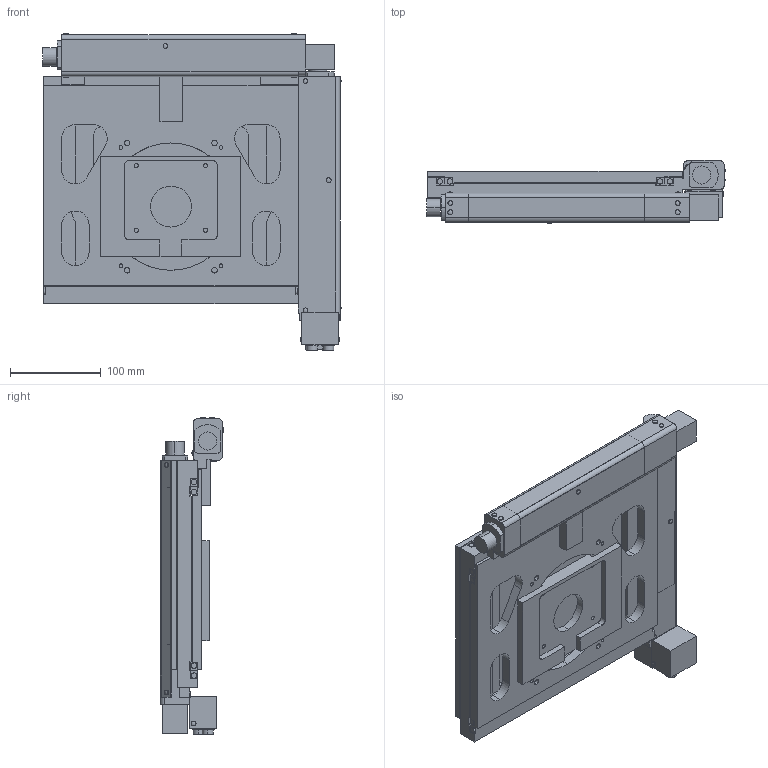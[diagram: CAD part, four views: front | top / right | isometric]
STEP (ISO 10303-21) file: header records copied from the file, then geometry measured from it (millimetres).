
FILE_DESCRIPTION (( 'STEP AP203' ), '1' );
FILE_NAME ('MSS-150C-OA.STEP', '2013-03-14T07:06:33', ( '' ), ( '' ), 'SwSTEP 2.0', 'SolidWorks 2011', '' );
FILE_SCHEMA (( 'CONFIG_CONTROL_DESIGN' ));
Length unit declared in the file: millimetre
Products named in the file (5): MSS-150C-OA; MSS-150C-OA-4; MSS-150C-OA-3; MSS-150C-OA-2; MSS-150C-OA-1
Assembly tree (4 placements, depth 2):
  MSS-150C-OA
    MSS-150C-OA-2
    MSS-150C-OA-4
    MSS-150C-OA-3
    MSS-150C-OA-1
Bounding box: 328.44 x 69.44 x 348.74 mm (x, y, z)
Volume: 1906975.3 mm3; surface area: 571885.6 mm2
Topology: 4 solids, 8 shells, 547 faces, 1377 edges, 908 vertices
Faces by surface type: plane 302, cylinder 224, bspline 21
Entity records: 21190 total; most frequent: CARTESIAN_POINT 7156, DIRECTION 2819, ORIENTED_EDGE 2754, EDGE_CURVE 1377, AXIS2_PLACEMENT_3D 955, VECTOR 909, LINE 909, VERTEX_POINT 908
